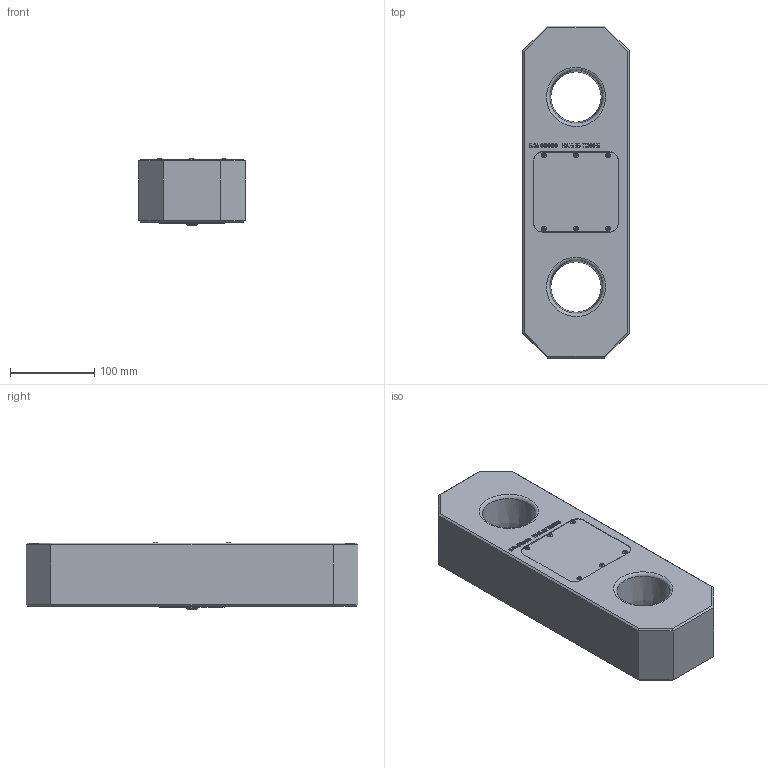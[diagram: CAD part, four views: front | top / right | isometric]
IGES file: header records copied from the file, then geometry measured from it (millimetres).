
Global section: file name: RLP35T; native system: Autodesk Inventor 2016; preprocessor: unknown; author: rdivakaran; date: 20180811.132003; units: metre
Bounding box: 126 x 393 x 80.32 mm (x, y, z)
Volume: 3132601.1 mm3; surface area: 196293.8 mm2
Topology: 1 solids, 1 shells, 877 faces, 2498 edges, 1690 vertices
Faces by surface type: bspline 877
